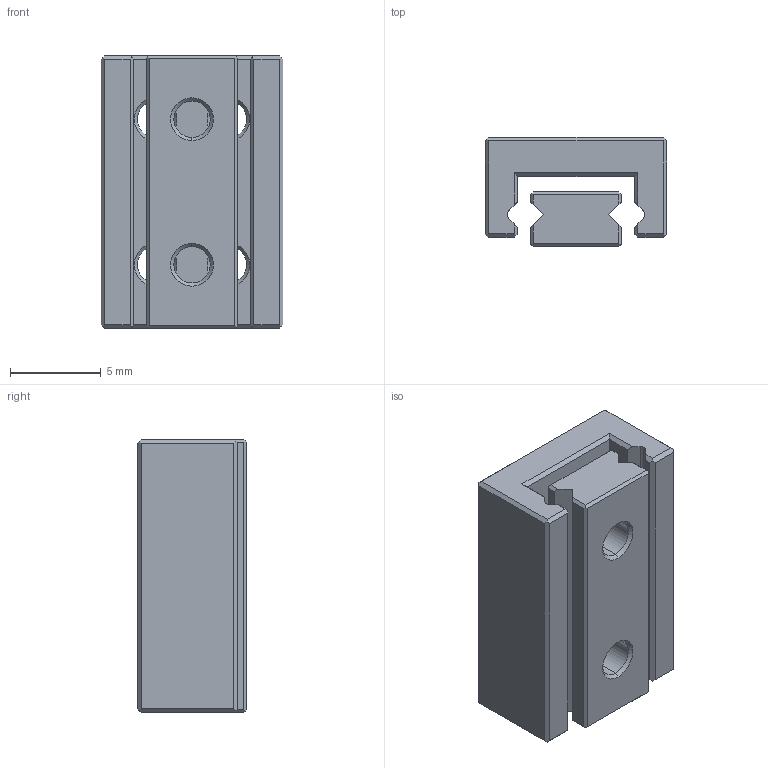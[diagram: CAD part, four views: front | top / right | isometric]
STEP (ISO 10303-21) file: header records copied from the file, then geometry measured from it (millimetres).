
FILE_DESCRIPTION (( 'STEP AP214' ), '1' );
FILE_NAME ('PMM 1-15.STEP', '2012-03-02T10:37:21', ( '' ), ( '' ), 'SwSTEP 2.0', 'SolidWorks 2011', '' );
FILE_SCHEMA (( 'AUTOMOTIVE_DESIGN' ));
Length unit declared in the file: millimetre
Products named in the file (1): PMM 1-15
Bounding box: 10 x 6 x 15 mm (x, y, z)
Volume: 646.5 mm3; surface area: 957.7 mm2
Topology: 2 solids, 2 shells, 256 faces, 696 edges, 460 vertices
Faces by surface type: plane 174, bspline 43, cone 24, cylinder 15
Entity records: 11893 total; most frequent: CARTESIAN_POINT 4024, ORIENTED_EDGE 1392, DIRECTION 1108, EDGE_CURVE 696, LINE 540, VECTOR 540, VERTEX_POINT 460, AXIS2_PLACEMENT_3D 284
